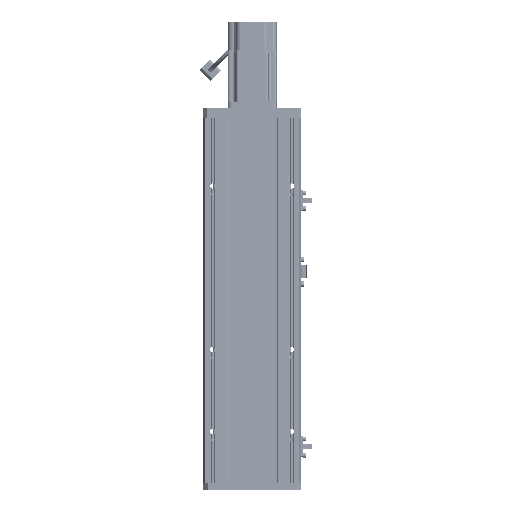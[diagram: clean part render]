
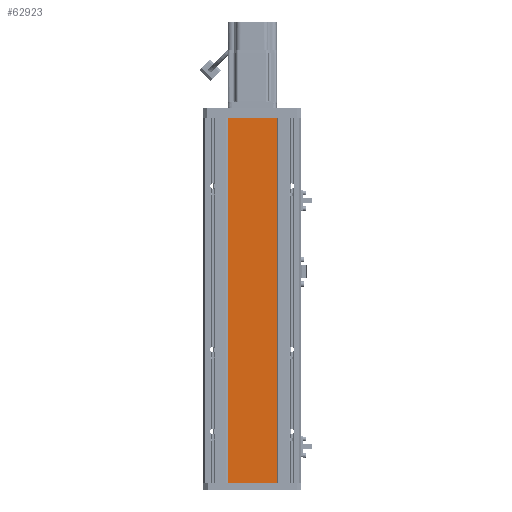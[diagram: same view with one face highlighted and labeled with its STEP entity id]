
A CAD part, front view. The second image highlights one B-rep face of the part: STEP entity #62923.
In plain terms, the highlighted planar face has unit normal (0, -1, 0).
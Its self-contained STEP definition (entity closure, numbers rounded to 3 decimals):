
#1681 = DIRECTION ( 'NONE',  ( -1., 0., 0. ) ) ;
#6253 = AXIS2_PLACEMENT_3D ( 'NONE', #25731, #50110, #1681 ) ;
#6597 = DIRECTION ( 'NONE',  ( 0., 0., 1. ) ) ;
#8829 = CARTESIAN_POINT ( 'NONE',  ( -30., 0., 0. ) ) ;
#16438 = VERTEX_POINT ( 'NONE', #8829 ) ;
#23198 = CARTESIAN_POINT ( 'NONE',  ( 30., 0., -446.5 ) ) ;
#23685 = VERTEX_POINT ( 'NONE', #77351 ) ;
#25304 = DIRECTION ( 'NONE',  ( -1., 0., 0. ) ) ;
#25731 = CARTESIAN_POINT ( 'NONE',  ( 30., 0., -446.5 ) ) ;
#28315 = CARTESIAN_POINT ( 'NONE',  ( -30., 0., -446.5 ) ) ;
#29860 = FACE_OUTER_BOUND ( 'NONE', #100055, .T. ) ;
#34539 = LINE ( 'NONE', #81945, #53454 ) ;
#41631 = DIRECTION ( 'NONE',  ( -1., 0., 0. ) ) ;
#42679 = LINE ( 'NONE', #98190, #85737 ) ;
#44437 = ORIENTED_EDGE ( 'NONE', *, *, #57088, .T. ) ;
#48271 = CARTESIAN_POINT ( 'NONE',  ( -30., 0., -446.5 ) ) ;
#48392 = LINE ( 'NONE', #54668, #88911 ) ;
#50110 = DIRECTION ( 'NONE',  ( 0., 1., 0. ) ) ;
#50129 = LINE ( 'NONE', #48271, #98228 ) ;
#50681 = VERTEX_POINT ( 'NONE', #28315 ) ;
#50986 = ORIENTED_EDGE ( 'NONE', *, *, #65450, .T. ) ;
#53454 = VECTOR ( 'NONE', #25304, 1000. ) ;
#54668 = CARTESIAN_POINT ( 'NONE',  ( 30., 0., -446.5 ) ) ;
#56843 = ORIENTED_EDGE ( 'NONE', *, *, #81919, .F. ) ;
#57088 = EDGE_CURVE ( 'NONE', #23685, #16438, #34539, .T. ) ;
#62923 = ADVANCED_FACE ( 'NONE', ( #29860 ), #82377, .F. ) ;
#65450 = EDGE_CURVE ( 'NONE', #93199, #23685, #48392, .T. ) ;
#77351 = CARTESIAN_POINT ( 'NONE',  ( 30., 0., 0. ) ) ;
#81919 = EDGE_CURVE ( 'NONE', #50681, #16438, #50129, .T. ) ;
#81945 = CARTESIAN_POINT ( 'NONE',  ( 30., 0., 0. ) ) ;
#82377 = PLANE ( 'NONE',  #6253 ) ;
#85737 = VECTOR ( 'NONE', #41631, 1000. ) ;
#88911 = VECTOR ( 'NONE', #6597, 1000. ) ;
#93199 = VERTEX_POINT ( 'NONE', #23198 ) ;
#93396 = ORIENTED_EDGE ( 'NONE', *, *, #102665, .F. ) ;
#98190 = CARTESIAN_POINT ( 'NONE',  ( 30., 0., -446.5 ) ) ;
#98228 = VECTOR ( 'NONE', #104840, 1000. ) ;
#100055 = EDGE_LOOP ( 'NONE', ( #44437, #56843, #93396, #50986 ) ) ;
#102665 = EDGE_CURVE ( 'NONE', #93199, #50681, #42679, .T. ) ;
#104840 = DIRECTION ( 'NONE',  ( 0., 0., 1. ) ) ;
